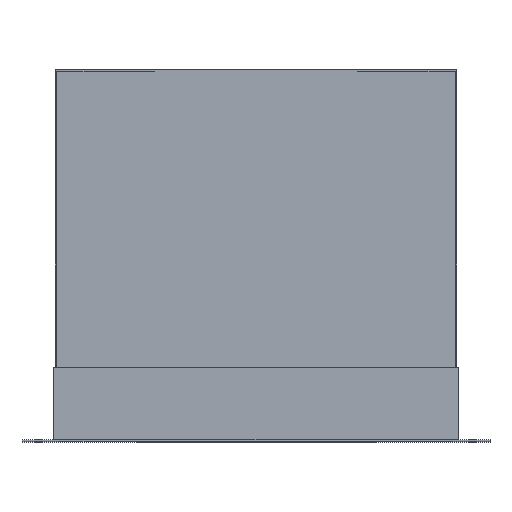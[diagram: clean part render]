
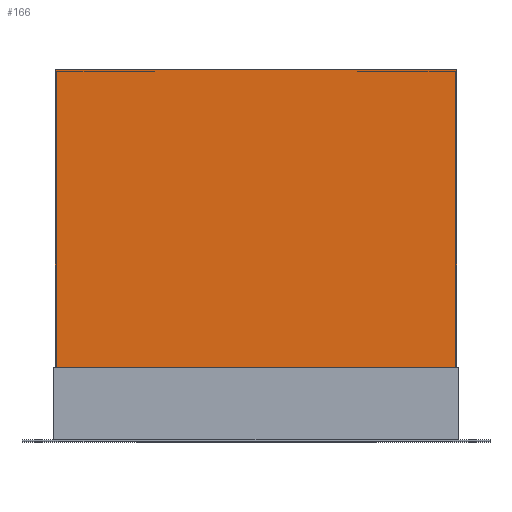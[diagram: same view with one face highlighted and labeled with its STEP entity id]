
A CAD part, top view. The second image highlights one B-rep face of the part: STEP entity #166.
In plain terms, the highlighted planar face has unit normal (0, 0, 1).
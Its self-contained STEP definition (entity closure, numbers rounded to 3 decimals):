
#166=ADVANCED_FACE('',(#363),#364,.T.);
#363=FACE_OUTER_BOUND('',#578,.T.);
#364=PLANE('',#579);
#578=EDGE_LOOP('',(#1033,#1034,#1035,#1036));
#579=AXIS2_PLACEMENT_3D('',#1037,#1038,#1039);
#1033=ORIENTED_EDGE('',*,*,#1307,.T.);
#1034=ORIENTED_EDGE('',*,*,#1395,.T.);
#1035=ORIENTED_EDGE('',*,*,#1396,.T.);
#1036=ORIENTED_EDGE('',*,*,#1397,.T.);
#1037=CARTESIAN_POINT('',(0.0,500.5,540.0));
#1038=DIRECTION('',(0.0,0.0,1.0));
#1039=DIRECTION('',(1.0,0.0,0.0));
#1307=EDGE_CURVE('',#1602,#1600,#1603,.T.);
#1395=EDGE_CURVE('',#1600,#1722,#1723,.T.);
#1396=EDGE_CURVE('',#1722,#1724,#1725,.T.);
#1397=EDGE_CURVE('',#1724,#1602,#1726,.T.);
#1600=VERTEX_POINT('',#1981);
#1602=VERTEX_POINT('',#1984);
#1603=LINE('',#1985,#1986);
#1722=VERTEX_POINT('',#2155);
#1723=LINE('',#2156,#2157);
#1724=VERTEX_POINT('',#2158);
#1725=LINE('',#2159,#2160);
#1726=LINE('',#2161,#2162);
#1981=CARTESIAN_POINT('',(540.0,200.0,540.0));
#1984=CARTESIAN_POINT('',(-540.0,200.0,540.0));
#1985=CARTESIAN_POINT('',(0.0,200.0,540.0));
#1986=VECTOR('',#2374,1.0);
#2155=CARTESIAN_POINT('',(540.0,1000.0,540.0));
#2156=CARTESIAN_POINT('',(540.0,500.5,540.0));
#2157=VECTOR('',#2461,1.0);
#2158=CARTESIAN_POINT('',(-540.0,1000.0,540.0));
#2159=CARTESIAN_POINT('',(0.0,1000.0,540.0));
#2160=VECTOR('',#2462,1.0);
#2161=CARTESIAN_POINT('',(-540.0,500.5,540.0));
#2162=VECTOR('',#2463,1.0);
#2374=DIRECTION('',(1.0,0.0,-0.0));
#2461=DIRECTION('',(0.0,1.0,0.0));
#2462=DIRECTION('',(-1.0,0.0,0.0));
#2463=DIRECTION('',(0.0,-1.0,0.0));
